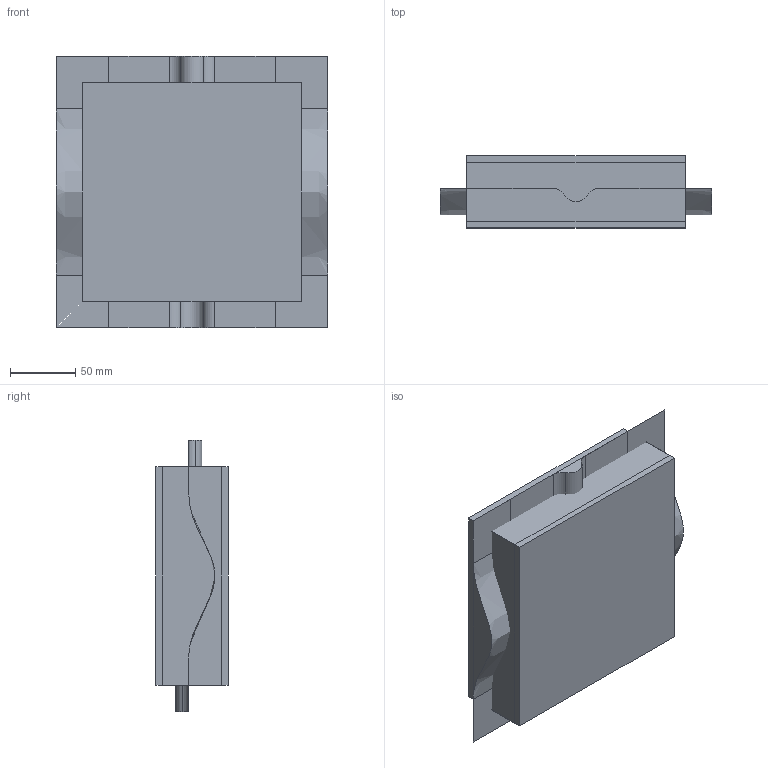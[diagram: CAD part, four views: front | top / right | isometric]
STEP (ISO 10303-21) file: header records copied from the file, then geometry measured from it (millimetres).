
FILE_DESCRIPTION(('CATIA V5 STEP Exchange'),'2;1');
FILE_NAME('C:\_Andres\UNIVERSIDAD\IQS\ASIGNATURAS\DAO\EXF\EXF-16172c\2inicio\Reyes_Carmenaty_Ej02_v27.stp','2017-03-05T15:45:35+00:00',('none'),('none'),'CATIA Version 5-6 Release 2014 SP1 HF18','CATIA V5 STEP AP203','none');
FILE_SCHEMA(('CONFIG_CONTROL_DESIGN'));
Length unit declared in the file: millimetre
Products named in the file (1): Reyes_Carmenaty_Ej02_v27
Bounding box: 207 x 55 x 207 mm (x, y, z)
Surface area: 278119.7 mm2
Topology: 3 solids, 10 shells, 72 faces, 205 edges, 150 vertices
Faces by surface type: bspline 32, plane 32, cylinder 6, extrusion 2
Entity records: 5966 total; most frequent: CARTESIAN_POINT 4649, ORIENTED_EDGE 288, DIRECTION 151, EDGE_CURVE 132, VERTEX_POINT 84, VECTOR 77, LINE 75, ADVANCED_FACE 72
